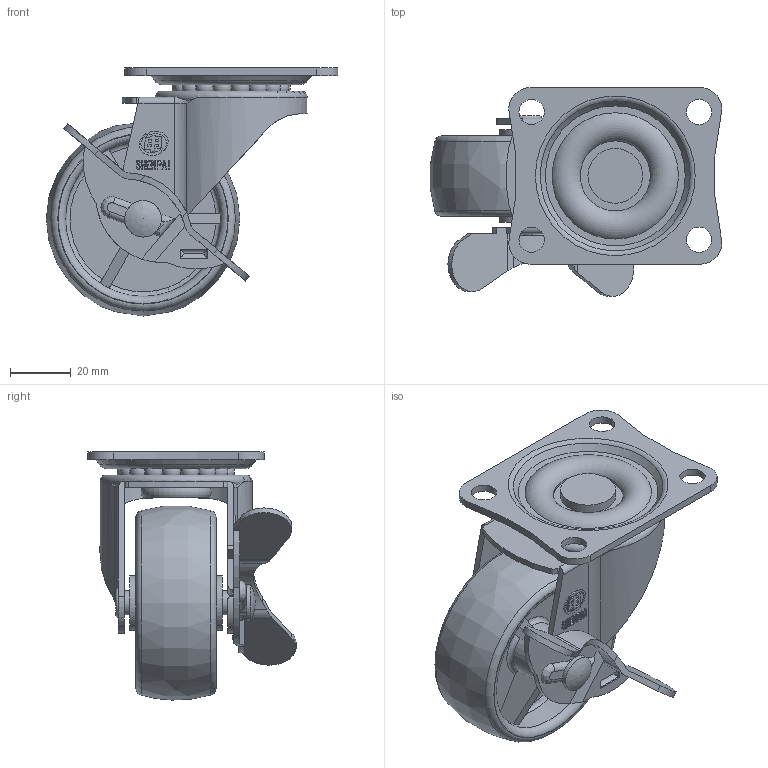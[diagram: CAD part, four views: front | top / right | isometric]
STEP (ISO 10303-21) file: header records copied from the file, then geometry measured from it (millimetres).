
FILE_DESCRIPTION(/* description */ (''),/* implementation_level */ '2;1');
FILE_NAME(/* name */ '10A18_2.5_F.stp',/* time_stamp */ '2022-10-06T13:47:07+08:00',/* author */ (''),/* organization */ (''),/* preprocessor_version */ 'ST-DEVELOPER v14',/* originating_system */ 'SIEMENS PLM Software NX 8.0',/* authorisation */ '');
FILE_SCHEMA (('AUTOMOTIVE_DESIGN { 1 0 10303 214 3 1 1 1 }'));
Length unit declared in the file: millimetre
Products named in the file (1): 10A18_2.5_F
Bounding box: 95.8 x 68.49 x 81.57 mm (x, y, z)
Volume: 74714.8 mm3; surface area: 45329.1 mm2
Topology: 1 solids, 2 shells, 457 faces, 1344 edges, 888 vertices
Faces by surface type: plane 269, cylinder 101, torus 49, sphere 17, bspline 15, cone 6
Full cylindrical faces by diameter (mm): 6.4 x1, 8 x2, 8.2 x1, 8.3 x6, 12 x2, 12.2 x1, 14.5 x1, 15 x1, 18 x3, 23 x1, 51 x2
Entity records: 18014 total; most frequent: CARTESIAN_POINT 7216, ORIENTED_EDGE 2356, DIRECTION 1969, EDGE_CURVE 1178, VERTEX_POINT 803, AXIS2_PLACEMENT_3D 757, EDGE_LOOP 586, ADVANCED_FACE 457
